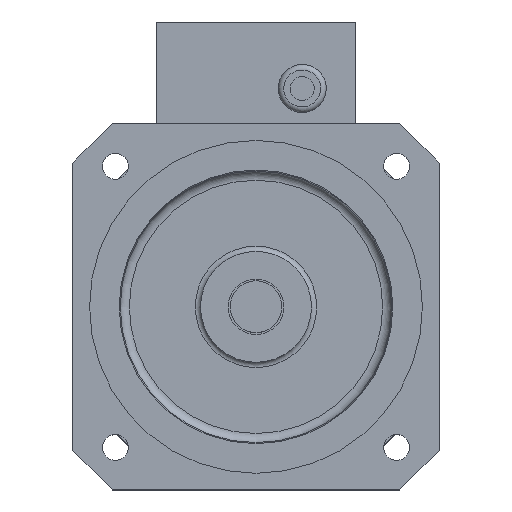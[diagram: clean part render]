
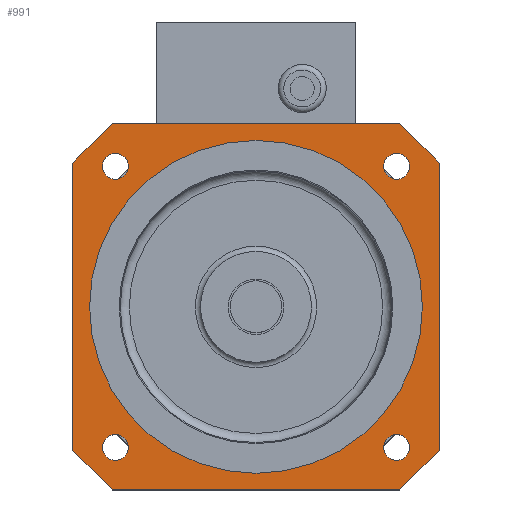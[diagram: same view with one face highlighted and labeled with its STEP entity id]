
A CAD part, top view. The second image highlights one B-rep face of the part: STEP entity #991.
In plain terms, the highlighted planar face has unit normal (0, 0, 1) as drawn and (0, 0, -1) by its records, which use the part's own axes.
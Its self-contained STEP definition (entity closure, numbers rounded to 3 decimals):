
#991=ADVANCED_FACE('',(#1488,#1489,#1490,#1491,#1492,#2009),#1378,.T.);
#1378=PLANE('',#12600);
#1488=FACE_BOUND('',#2617,.T.);
#1489=FACE_BOUND('',#2618,.T.);
#1490=FACE_BOUND('',#2619,.T.);
#1491=FACE_BOUND('',#2620,.T.);
#1492=FACE_BOUND('',#2621,.T.);
#2009=FACE_OUTER_BOUND('',#2622,.T.);
#2617=EDGE_LOOP('',(#6088));
#2618=EDGE_LOOP('',(#6089));
#2619=EDGE_LOOP('',(#6090));
#2620=EDGE_LOOP('',(#6091));
#2621=EDGE_LOOP('',(#6092));
#2622=EDGE_LOOP('',(#6093,#6094,#6095,#6096,#6097,#6098,#6099,#6100));
#3378=CIRCLE('',#12595,7.);
#3379=CIRCLE('',#12596,7.);
#3380=CIRCLE('',#12597,7.);
#3381=CIRCLE('',#12598,7.);
#3382=CIRCLE('',#12599,90.);
#6088=ORIENTED_EDGE('',*,*,#9317,.T.);
#6089=ORIENTED_EDGE('',*,*,#9318,.T.);
#6090=ORIENTED_EDGE('',*,*,#9319,.T.);
#6091=ORIENTED_EDGE('',*,*,#9320,.T.);
#6092=ORIENTED_EDGE('',*,*,#9321,.F.);
#6093=ORIENTED_EDGE('',*,*,#9322,.F.);
#6094=ORIENTED_EDGE('',*,*,#9323,.T.);
#6095=ORIENTED_EDGE('',*,*,#9308,.F.);
#6096=ORIENTED_EDGE('',*,*,#9324,.T.);
#6097=ORIENTED_EDGE('',*,*,#9312,.F.);
#6098=ORIENTED_EDGE('',*,*,#9325,.T.);
#6099=ORIENTED_EDGE('',*,*,#9315,.F.);
#6100=ORIENTED_EDGE('',*,*,#9326,.T.);
#7774=VERTEX_POINT('',#19134);
#7775=VERTEX_POINT('',#19135);
#7776=VERTEX_POINT('',#19140);
#7777=VERTEX_POINT('',#19142);
#7778=VERTEX_POINT('',#19146);
#7779=VERTEX_POINT('',#19148);
#7780=VERTEX_POINT('',#19152);
#7781=VERTEX_POINT('',#19154);
#7782=VERTEX_POINT('',#19156);
#7783=VERTEX_POINT('',#19158);
#7784=VERTEX_POINT('',#19160);
#7785=VERTEX_POINT('',#19162);
#7786=VERTEX_POINT('',#19163);
#9308=EDGE_CURVE('',#7774,#7775,#10490,.T.);
#9312=EDGE_CURVE('',#7776,#7777,#10494,.T.);
#9315=EDGE_CURVE('',#7778,#7779,#10497,.T.);
#9317=EDGE_CURVE('',#7780,#7780,#3378,.T.);
#9318=EDGE_CURVE('',#7781,#7781,#3379,.T.);
#9319=EDGE_CURVE('',#7782,#7782,#3380,.T.);
#9320=EDGE_CURVE('',#7783,#7783,#3381,.T.);
#9321=EDGE_CURVE('',#7784,#7784,#3382,.T.);
#9322=EDGE_CURVE('',#7785,#7786,#10499,.T.);
#9323=EDGE_CURVE('',#7785,#7775,#10500,.T.);
#9324=EDGE_CURVE('',#7774,#7777,#10501,.T.);
#9325=EDGE_CURVE('',#7776,#7779,#10502,.T.);
#9326=EDGE_CURVE('',#7778,#7786,#10503,.T.);
#10490=LINE('',#19133,#11470);
#10494=LINE('',#19141,#11474);
#10497=LINE('',#19147,#11477);
#10499=LINE('',#19161,#11479);
#10500=LINE('',#19164,#11480);
#10501=LINE('',#19165,#11481);
#10502=LINE('',#19166,#11482);
#10503=LINE('',#19167,#11483);
#11470=VECTOR('',#15595,1.);
#11474=VECTOR('',#15601,1.);
#11477=VECTOR('',#15606,1.);
#11479=VECTOR('',#15620,1.);
#11480=VECTOR('',#15621,1.);
#11481=VECTOR('',#15622,1.);
#11482=VECTOR('',#15623,1.);
#11483=VECTOR('',#15624,1.);
#12595=AXIS2_PLACEMENT_3D('',#19151,#15610,#15611);
#12596=AXIS2_PLACEMENT_3D('',#19153,#15612,#15613);
#12597=AXIS2_PLACEMENT_3D('',#19155,#15614,#15615);
#12598=AXIS2_PLACEMENT_3D('',#19157,#15616,#15617);
#12599=AXIS2_PLACEMENT_3D('',#19159,#15618,#15619);
#12600=AXIS2_PLACEMENT_3D('',#19168,#15625,#15626);
#15595=DIRECTION('',(1.,0.,0.));
#15601=DIRECTION('',(0.,-1.,0.));
#15606=DIRECTION('',(-1.,0.,0.));
#15610=DIRECTION('',(0.,0.,1.));
#15611=DIRECTION('',(0.,1.,0.));
#15612=DIRECTION('',(0.,0.,1.));
#15613=DIRECTION('',(-1.,0.,0.));
#15614=DIRECTION('',(0.,0.,1.));
#15615=DIRECTION('',(0.,-1.,0.));
#15616=DIRECTION('',(0.,0.,1.));
#15617=DIRECTION('',(1.,0.,0.));
#15618=DIRECTION('',(0.,0.,-1.));
#15619=DIRECTION('',(-1.,0.,0.));
#15620=DIRECTION('',(0.,1.,0.));
#15621=DIRECTION('',(-0.707,-0.707,0.));
#15622=DIRECTION('',(-0.707,0.707,0.));
#15623=DIRECTION('',(0.707,0.707,0.));
#15624=DIRECTION('',(0.707,-0.707,0.));
#15625=DIRECTION('',(0.,0.,-1.));
#15626=DIRECTION('',(-1.,0.,0.));
#19133=CARTESIAN_POINT('',(99.,0.,0.));
#19134=CARTESIAN_POINT('',(21.22,0.,0.));
#19135=CARTESIAN_POINT('',(176.78,0.,0.));
#19140=CARTESIAN_POINT('',(0.,176.78,0.));
#19141=CARTESIAN_POINT('',(0.,99.,0.));
#19142=CARTESIAN_POINT('',(0.,21.22,0.));
#19146=CARTESIAN_POINT('',(176.78,198.,0.));
#19147=CARTESIAN_POINT('',(99.,198.,0.));
#19148=CARTESIAN_POINT('',(21.22,198.,0.));
#19151=CARTESIAN_POINT('',(22.986,175.014,0.));
#19152=CARTESIAN_POINT('',(22.986,182.014,0.));
#19153=CARTESIAN_POINT('',(22.986,22.986,0.));
#19154=CARTESIAN_POINT('',(15.986,22.986,0.));
#19155=CARTESIAN_POINT('',(175.014,22.986,0.));
#19156=CARTESIAN_POINT('',(175.014,15.986,0.));
#19157=CARTESIAN_POINT('',(175.014,175.014,0.));
#19158=CARTESIAN_POINT('',(182.014,175.014,0.));
#19159=CARTESIAN_POINT('',(99.,99.,0.));
#19160=CARTESIAN_POINT('',(9.,99.,0.));
#19161=CARTESIAN_POINT('',(198.,99.,0.));
#19162=CARTESIAN_POINT('',(198.,21.22,0.));
#19163=CARTESIAN_POINT('',(198.,176.78,0.));
#19164=CARTESIAN_POINT('',(187.39,10.61,0.));
#19165=CARTESIAN_POINT('',(10.61,10.61,0.));
#19166=CARTESIAN_POINT('',(10.61,187.39,0.));
#19167=CARTESIAN_POINT('',(187.39,187.39,0.));
#19168=CARTESIAN_POINT('',(99.,99.,0.));
